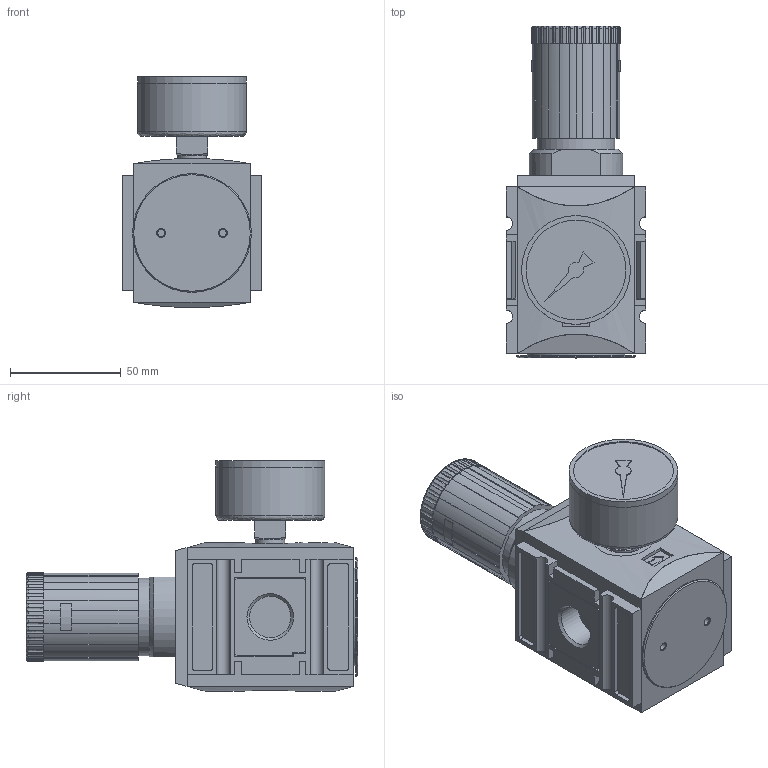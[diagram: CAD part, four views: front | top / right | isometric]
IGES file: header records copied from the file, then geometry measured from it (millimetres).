
Start section: Data from Parasolid IGES Translator 17.0.49, Copyright(c) 2006 Siemens P LM Software. All Rights Reserved.
Global section: file name: FU 7174.igs; native system: By Siemens PLM Incorporated; preprocessor: XPlus GENERIC/IGES 17.0.49; author: Noname; organization: Noname; date: 20170112.110848; units: millimetre
Bounding box: 63 x 149.5 x 104.06 mm (x, y, z)
Surface area: 57963.9 mm2 (no closed solid volume)
Topology: 0 solids, 0 shells, 503 faces, 2642 edges, 2593 vertices
Faces by surface type: extrusion 271, revolution 232
